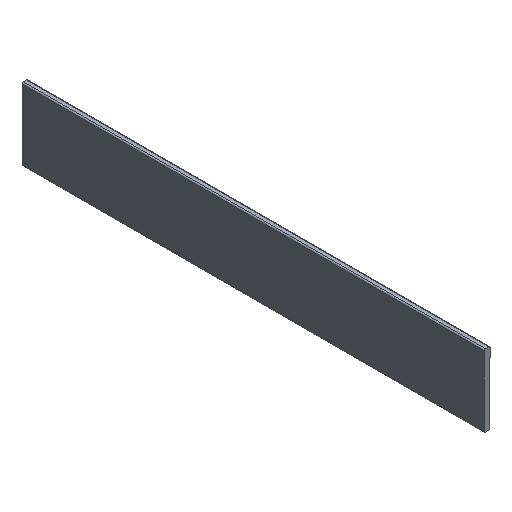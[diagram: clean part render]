
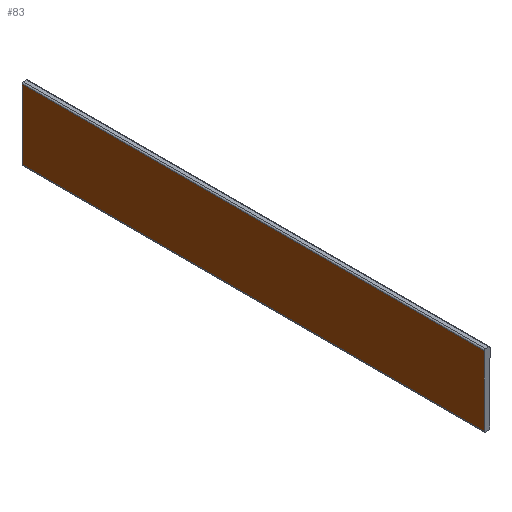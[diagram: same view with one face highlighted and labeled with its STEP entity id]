
A CAD part, isometric view. The second image highlights one B-rep face of the part: STEP entity #83.
In plain terms, the highlighted planar face has unit normal (-1, 0, 0).
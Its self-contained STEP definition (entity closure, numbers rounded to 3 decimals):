
#10 = EDGE_CURVE ( 'NONE', #287, #286, #41, .T. ) ;
#18 = EDGE_CURVE ( 'NONE', #288, #285, #43, .T. ) ;
#19 = EDGE_CURVE ( 'NONE', #285, #287, #52, .T. ) ;
#32 = EDGE_CURVE ( 'NONE', #288, #286, #49, .T. ) ;
#41 = LINE ( 'NONE', #299, #42 ) ;
#42 = VECTOR ( 'NONE', #239, 1000. ) ;
#43 = LINE ( 'NONE', #318, #51 ) ;
#49 = LINE ( 'NONE', #234, #61 ) ;
#51 = VECTOR ( 'NONE', #319, 1000. ) ;
#52 = LINE ( 'NONE', #191, #53 ) ;
#53 = VECTOR ( 'NONE', #192, 1000. ) ;
#61 = VECTOR ( 'NONE', #235, 1000. ) ;
#83 = ADVANCED_FACE ( 'NONE', ( #176 ), #216, .T. ) ;
#85 = ORIENTED_EDGE ( 'NONE', *, *, #19, .T. ) ;
#88 = ORIENTED_EDGE ( 'NONE', *, *, #10, .T. ) ;
#112 = EDGE_LOOP ( 'NONE', ( #85, #88, #170, #166 ) ) ;
#131 = AXIS2_PLACEMENT_3D ( 'NONE', #214, #247, #248 ) ;
#166 = ORIENTED_EDGE ( 'NONE', *, *, #18, .T. ) ;
#170 = ORIENTED_EDGE ( 'NONE', *, *, #32, .F. ) ;
#176 = FACE_OUTER_BOUND ( 'NONE', #112, .T. ) ;
#191 = CARTESIAN_POINT ( 'NONE',  ( -3.9, 613., 0. ) ) ;
#192 = DIRECTION ( 'NONE',  ( 0., 0., -1. ) ) ;
#214 = CARTESIAN_POINT ( 'NONE',  ( -3.9, 613., 0. ) ) ;
#216 = PLANE ( 'NONE',  #131 ) ;
#234 = CARTESIAN_POINT ( 'NONE',  ( -3.9, 0., 0. ) ) ;
#235 = DIRECTION ( 'NONE',  ( 0., 0., -1. ) ) ;
#239 = DIRECTION ( 'NONE',  ( 0., -1., 0. ) ) ;
#243 = CARTESIAN_POINT ( 'NONE',  ( -3.9, 613., 94.2 ) ) ;
#247 = DIRECTION ( 'NONE',  ( -1., 0., 0. ) ) ;
#248 = DIRECTION ( 'NONE',  ( 0., -1., 0. ) ) ;
#261 = CARTESIAN_POINT ( 'NONE',  ( -3.9, 0., 1.6 ) ) ;
#262 = CARTESIAN_POINT ( 'NONE',  ( -3.9, 613., 1.6 ) ) ;
#263 = CARTESIAN_POINT ( 'NONE',  ( -3.9, 0., 94.2 ) ) ;
#285 = VERTEX_POINT ( 'NONE', #243 ) ;
#286 = VERTEX_POINT ( 'NONE', #261 ) ;
#287 = VERTEX_POINT ( 'NONE', #262 ) ;
#288 = VERTEX_POINT ( 'NONE', #263 ) ;
#299 = CARTESIAN_POINT ( 'NONE',  ( -3.9, 613., 1.6 ) ) ;
#318 = CARTESIAN_POINT ( 'NONE',  ( -3.9, 613., 94.2 ) ) ;
#319 = DIRECTION ( 'NONE',  ( 0., 1., 0. ) ) ;
